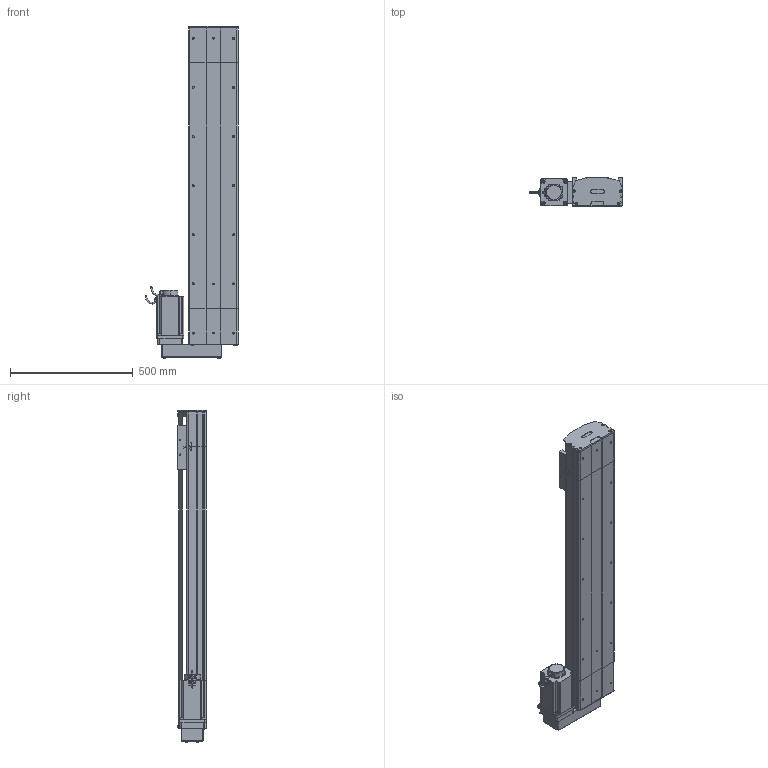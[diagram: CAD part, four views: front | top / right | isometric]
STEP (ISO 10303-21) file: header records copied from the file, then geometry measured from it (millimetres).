
FILE_DESCRIPTION (( 'STEP AP214' ), '1' );
FILE_NAME ('D20 TSH BL S1000.STEP', '2010-06-30T08:39:34', ( 'Conseil Régional Haute-Normandie' ), ( 'Conseil Régional Haute-Normandie' ), 'SwSTEP 2.0', 'SolidWorks 2010', '' );
FILE_SCHEMA (( 'AUTOMOTIVE_DESIGN' ));
Length unit declared in the file: millimetre
Products named in the file (35): 2 vis M5 L12_Default; chariot D20S_Default; corpl tail D20_Default; tail D20 S_Default; vis M5 L12_Default; guide D20; Arbre+rail tail D20; couvercle tail D20_Default; plaque de  bout tail D20_Default; vis M5 L70_Default; vis M5 L8 90°_Default; tete d''axe haut D20; vis M5 L25_Default; Chariot D20; tete d''axe bas D20; renvoi  BR_Default; vis M8 L12_Default; clavette; Conecteur_Default; Conecteur2_Default; codeur 110BLDC170A-630x; corps 110BLDC170A-630x; avant 110BLDC170A-630x; corp D20 S1000_Default; Moteur motionking 110BLDC170A-640x; Plaque racord D20_Default; couvercle head l D20_Default; Arbre+rail head D20; D20 TSH BL S1000; plaque de  bout head BR D20_Default; corpl head MD D20_Default; head BL D20_Default; course D20 L1000_Default; couvercle D20 S1000_Default; rail + arbre  D20 S1000
Assembly tree (59 placements, depth 4):
  D20 TSH BL S1000
    head BL D20_Default
      corpl head MD D20_Default
      2 vis M5 L12_Default  x6
      Plaque racord D20_Default
      vis M8 L12_Default  x4
      vis M5 L70_Default  x4
      couvercle head l D20_Default
      Moteur motionking 110BLDC170A-640x
        avant 110BLDC170A-630x
        clavette
        codeur 110BLDC170A-630x
        corps 110BLDC170A-630x
        Conecteur_Default
        Conecteur2_Default
      renvoi  BR_Default
      vis M5 L25_Default  x2
      vis M5 L12_Default  x2
      Arbre+rail head D20
      plaque de  bout head BR D20_Default
    course D20 L1000_Default
      couvercle D20 S1000_Default
      rail + arbre  D20 S1000
      corp D20 S1000_Default
    tail D20 S_Default
      2 vis M5 L12_Default  x4
      tete d''axe haut D20
      vis M5 L25_Default  x2
      vis M5 L8 90°_Default  x2
      tete d''axe bas D20
      plaque de  bout tail D20_Default
      corpl tail D20_Default
      couvercle tail D20_Default
      Arbre+rail tail D20
    chariot D20S_Default
      guide D20  x2
      vis M5 L12_Default  x4
      Chariot D20
Bounding box: 380 x 115.7 x 1351.7 mm (x, y, z)
Volume: 13174638.4 mm3; surface area: 2748619.5 mm2
Topology: 84 solids, 84 shells, 2334 faces, 5873 edges, 3793 vertices
Faces by surface type: plane 1382, cylinder 664, bspline 136, torus 77, cone 71, sphere 4
Entity records: 76058 total; most frequent: CARTESIAN_POINT 24946, ORIENTED_EDGE 9042, DIRECTION 8518, EDGE_CURVE 4521, VERTEX_POINT 2975, VECTOR 2968, LINE 2968, AXIS2_PLACEMENT_3D 2775
